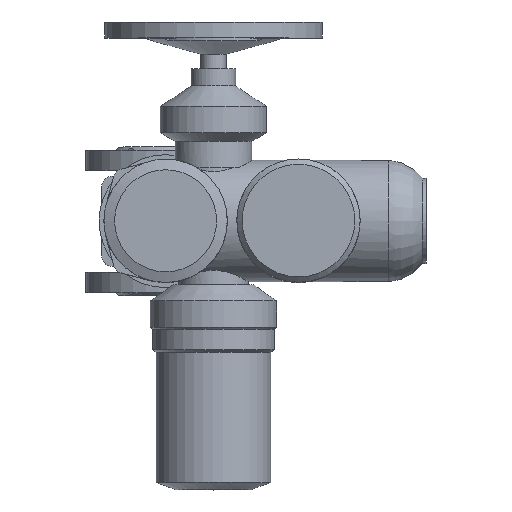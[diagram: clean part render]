
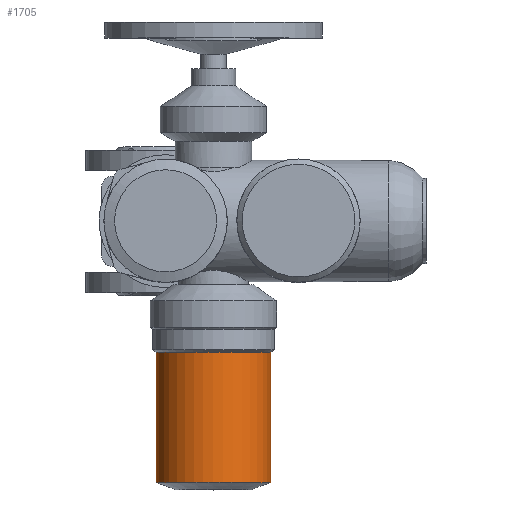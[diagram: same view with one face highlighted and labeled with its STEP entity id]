
A CAD part, top view. The second image highlights one B-rep face of the part: STEP entity #1705.
In plain terms, the highlighted cylindrical face has radius 54 mm (diameter 108 mm), a full revolution.
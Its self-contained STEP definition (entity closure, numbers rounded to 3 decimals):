
#1705=ADVANCED_FACE('',(#3461,#3463),#3465,.T.);
#3461=FACE_OUTER_BOUND('',#3462,.T.);
#3462=EDGE_LOOP('',(#4345));
#3463=FACE_OUTER_BOUND('',#3464,.T.);
#3464=EDGE_LOOP('',(#4346));
#3465=CYLINDRICAL_SURFACE('',#3466,54.);
#3466=AXIS2_PLACEMENT_3D('',#3467,#3468,#3469);
#3467=CARTESIAN_POINT('',(45.,-246.085,252.));
#3468=DIRECTION('',(0.,1.,0.));
#3469=DIRECTION('',(0.,0.,1.));
#4345=ORIENTED_EDGE('',*,*,#4779,.F.);
#4346=ORIENTED_EDGE('',*,*,#4780,.T.);
#4779=EDGE_CURVE('',#5516,#5516,#5517,.T.);
#4780=EDGE_CURVE('',#5518,#5518,#5519,.T.);
#5516=VERTEX_POINT('',#9242);
#5517=CIRCLE('',#9243,54.);
#5518=VERTEX_POINT('',#9247);
#5519=CIRCLE('',#9248,54.);
#9242=CARTESIAN_POINT('',(45.,-123.505,306.));
#9243=AXIS2_PLACEMENT_3D('',#9244,#9245,#9246);
#9244=CARTESIAN_POINT('',(45.,-123.505,252.));
#9245=DIRECTION('',(0.,1.,0.));
#9246=DIRECTION('',(0.,0.,1.));
#9247=CARTESIAN_POINT('',(45.,-246.085,306.));
#9248=AXIS2_PLACEMENT_3D('',#9249,#9250,#9251);
#9249=CARTESIAN_POINT('',(45.,-246.085,252.));
#9250=DIRECTION('',(0.,1.,0.));
#9251=DIRECTION('',(0.,0.,1.));
